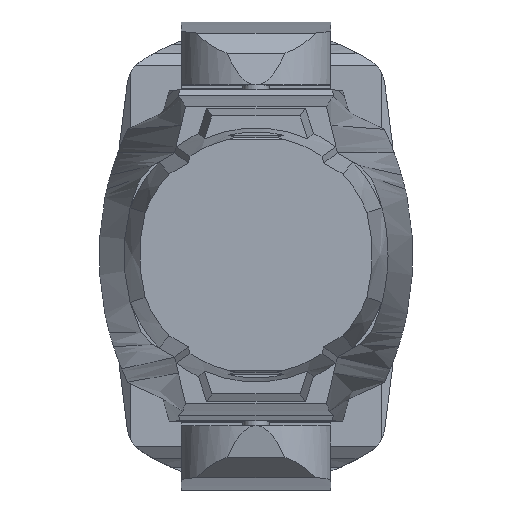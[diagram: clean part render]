
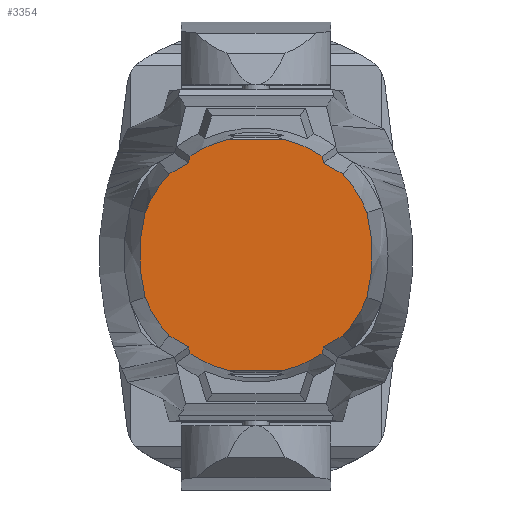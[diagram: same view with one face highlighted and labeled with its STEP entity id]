
A CAD part, top view. The second image highlights one B-rep face of the part: STEP entity #3354.
In plain terms, the highlighted planar face has unit normal (0, 0, 1).
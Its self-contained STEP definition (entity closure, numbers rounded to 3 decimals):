
#232=PLANE('',#3691);
#409=LINE('',#5571,#653);
#410=LINE('',#5573,#654);
#411=LINE('',#5575,#655);
#412=LINE('',#5583,#656);
#413=LINE('',#5585,#657);
#414=LINE('',#5586,#658);
#415=LINE('',#5587,#659);
#416=LINE('',#5589,#660);
#417=LINE('',#5597,#661);
#418=LINE('',#5599,#662);
#653=VECTOR('',#4357,1000.);
#654=VECTOR('',#4360,1000.);
#655=VECTOR('',#4361,1000.);
#656=VECTOR('',#4368,1000.);
#657=VECTOR('',#4369,1000.);
#658=VECTOR('',#4370,1000.);
#659=VECTOR('',#4371,1000.);
#660=VECTOR('',#4372,1000.);
#661=VECTOR('',#4379,1000.);
#662=VECTOR('',#4380,1000.);
#1336=ORIENTED_EDGE('',*,*,#2072,.F.);
#1337=ORIENTED_EDGE('',*,*,#2095,.T.);
#1338=ORIENTED_EDGE('',*,*,#2064,.F.);
#1339=ORIENTED_EDGE('',*,*,#2096,.F.);
#1340=ORIENTED_EDGE('',*,*,#2097,.F.);
#1341=ORIENTED_EDGE('',*,*,#2098,.F.);
#1342=ORIENTED_EDGE('',*,*,#2099,.F.);
#1343=ORIENTED_EDGE('',*,*,#2100,.F.);
#1344=ORIENTED_EDGE('',*,*,#2101,.F.);
#1345=ORIENTED_EDGE('',*,*,#2102,.F.);
#1346=ORIENTED_EDGE('',*,*,#2090,.F.);
#1347=ORIENTED_EDGE('',*,*,#2103,.F.);
#1348=ORIENTED_EDGE('',*,*,#2082,.F.);
#1349=ORIENTED_EDGE('',*,*,#2104,.F.);
#1350=ORIENTED_EDGE('',*,*,#2105,.F.);
#1351=ORIENTED_EDGE('',*,*,#2106,.F.);
#1352=ORIENTED_EDGE('',*,*,#2107,.F.);
#1353=ORIENTED_EDGE('',*,*,#2108,.F.);
#1354=ORIENTED_EDGE('',*,*,#2109,.F.);
#1355=ORIENTED_EDGE('',*,*,#2110,.F.);
#2064=EDGE_CURVE('',#2495,#2496,#2714,.T.);
#2072=EDGE_CURVE('',#2503,#2504,#2717,.T.);
#2082=EDGE_CURVE('',#2513,#2514,#2722,.T.);
#2090=EDGE_CURVE('',#2521,#2522,#2725,.T.);
#2095=EDGE_CURVE('',#2503,#2496,#409,.T.);
#2096=EDGE_CURVE('',#2523,#2495,#410,.F.);
#2097=EDGE_CURVE('',#2524,#2523,#411,.F.);
#2098=EDGE_CURVE('',#2525,#2524,#2726,.T.);
#2099=EDGE_CURVE('',#2526,#2525,#2727,.T.);
#2100=EDGE_CURVE('',#2527,#2526,#2728,.T.);
#2101=EDGE_CURVE('',#2528,#2527,#412,.F.);
#2102=EDGE_CURVE('',#2522,#2528,#413,.F.);
#2103=EDGE_CURVE('',#2514,#2521,#414,.T.);
#2104=EDGE_CURVE('',#2529,#2513,#415,.F.);
#2105=EDGE_CURVE('',#2530,#2529,#416,.F.);
#2106=EDGE_CURVE('',#2531,#2530,#2729,.T.);
#2107=EDGE_CURVE('',#2532,#2531,#2730,.T.);
#2108=EDGE_CURVE('',#2533,#2532,#2731,.T.);
#2109=EDGE_CURVE('',#2534,#2533,#417,.F.);
#2110=EDGE_CURVE('',#2504,#2534,#418,.F.);
#2495=VERTEX_POINT('',#5477);
#2496=VERTEX_POINT('',#5479);
#2503=VERTEX_POINT('',#5499);
#2504=VERTEX_POINT('',#5501);
#2513=VERTEX_POINT('',#5535);
#2514=VERTEX_POINT('',#5537);
#2521=VERTEX_POINT('',#5557);
#2522=VERTEX_POINT('',#5559);
#2523=VERTEX_POINT('',#5574);
#2524=VERTEX_POINT('',#5576);
#2525=VERTEX_POINT('',#5578);
#2526=VERTEX_POINT('',#5580);
#2527=VERTEX_POINT('',#5582);
#2528=VERTEX_POINT('',#5584);
#2529=VERTEX_POINT('',#5588);
#2530=VERTEX_POINT('',#5590);
#2531=VERTEX_POINT('',#5592);
#2532=VERTEX_POINT('',#5594);
#2533=VERTEX_POINT('',#5596);
#2534=VERTEX_POINT('',#5598);
#2714=CIRCLE('',#3668,99.699);
#2717=CIRCLE('',#3674,99.699);
#2722=CIRCLE('',#3680,99.699);
#2725=CIRCLE('',#3686,99.699);
#2726=CIRCLE('',#3692,99.699);
#2727=CIRCLE('',#3693,141.334);
#2728=CIRCLE('',#3694,99.699);
#2729=CIRCLE('',#3695,99.699);
#2730=CIRCLE('',#3696,141.334);
#2731=CIRCLE('',#3697,99.699);
#2891=EDGE_LOOP('',(#1336,#1337,#1338,#1339,#1340,#1341,#1342,#1343,#1344,
#1345,#1346,#1347,#1348,#1349,#1350,#1351,#1352,#1353,#1354,#1355));
#3109=FACE_BOUND('',#2891,.T.);
#3354=ADVANCED_FACE('',(#3109),#232,.F.);
#3668=AXIS2_PLACEMENT_3D('',#5478,#4308,#4309);
#3674=AXIS2_PLACEMENT_3D('',#5500,#4320,#4321);
#3680=AXIS2_PLACEMENT_3D('',#5536,#4332,#4333);
#3686=AXIS2_PLACEMENT_3D('',#5558,#4344,#4345);
#3691=AXIS2_PLACEMENT_3D('',#5572,#4358,#4359);
#3692=AXIS2_PLACEMENT_3D('',#5577,#4362,#4363);
#3693=AXIS2_PLACEMENT_3D('',#5579,#4364,#4365);
#3694=AXIS2_PLACEMENT_3D('',#5581,#4366,#4367);
#3695=AXIS2_PLACEMENT_3D('',#5591,#4373,#4374);
#3696=AXIS2_PLACEMENT_3D('',#5593,#4375,#4376);
#3697=AXIS2_PLACEMENT_3D('',#5595,#4377,#4378);
#4308=DIRECTION('',(0.,0.,-1.));
#4309=DIRECTION('',(0.,1.,0.));
#4320=DIRECTION('',(0.,0.,-1.));
#4321=DIRECTION('',(0.,1.,0.));
#4332=DIRECTION('',(0.,0.,-1.));
#4333=DIRECTION('',(0.,1.,0.));
#4344=DIRECTION('',(0.,0.,-1.));
#4345=DIRECTION('',(0.,1.,0.));
#4357=DIRECTION('',(-1.,0.,0.));
#4358=DIRECTION('',(0.,0.,-1.));
#4359=DIRECTION('',(0.,1.,0.));
#4360=DIRECTION('',(-0.229,-0.973,0.));
#4361=DIRECTION('',(-0.867,-0.498,0.));
#4362=DIRECTION('',(0.,0.,-1.));
#4363=DIRECTION('',(0.,1.,0.));
#4364=DIRECTION('',(0.,0.,-1.));
#4365=DIRECTION('',(0.,1.,0.));
#4366=DIRECTION('',(0.,0.,-1.));
#4367=DIRECTION('',(0.,1.,0.));
#4368=DIRECTION('',(0.867,-0.498,0.));
#4369=DIRECTION('',(0.229,-0.973,0.));
#4370=DIRECTION('',(-1.,0.,0.));
#4371=DIRECTION('',(0.229,0.973,0.));
#4372=DIRECTION('',(0.867,0.498,0.));
#4373=DIRECTION('',(0.,0.,-1.));
#4374=DIRECTION('',(0.,1.,0.));
#4375=DIRECTION('',(0.,0.,-1.));
#4376=DIRECTION('',(0.,1.,0.));
#4377=DIRECTION('',(0.,0.,-1.));
#4378=DIRECTION('',(0.,1.,0.));
#4379=DIRECTION('',(-0.867,0.498,0.));
#4380=DIRECTION('',(-0.229,0.973,0.));
#5477=CARTESIAN_POINT('',(-55.469,82.844,728.152));
#5478=CARTESIAN_POINT('',(0.,0.,728.152));
#5479=CARTESIAN_POINT('',(-23.984,96.772,728.152));
#5499=CARTESIAN_POINT('',(23.984,96.772,728.152));
#5500=CARTESIAN_POINT('',(0.,0.,728.152));
#5501=CARTESIAN_POINT('',(55.469,82.844,728.152));
#5535=CARTESIAN_POINT('',(55.469,-82.844,728.152));
#5536=CARTESIAN_POINT('',(0.,0.,728.152));
#5537=CARTESIAN_POINT('',(23.984,-96.772,728.152));
#5557=CARTESIAN_POINT('',(-23.984,-96.772,728.152));
#5558=CARTESIAN_POINT('',(0.,0.,728.152));
#5559=CARTESIAN_POINT('',(-55.469,-82.844,728.152));
#5571=CARTESIAN_POINT('',(135.101,96.772,728.152));
#5572=CARTESIAN_POINT('',(135.101,96.772,728.152));
#5573=CARTESIAN_POINT('',(-42.351,138.554,728.152));
#5574=CARTESIAN_POINT('',(-56.812,77.138,728.152));
#5575=CARTESIAN_POINT('',(96.03,164.853,728.152));
#5576=CARTESIAN_POINT('',(-73.111,67.785,728.152));
#5577=CARTESIAN_POINT('',(0.,0.,728.152));
#5578=CARTESIAN_POINT('',(-93.091,35.694,728.152));
#5579=CARTESIAN_POINT('',(43.662,0.,728.152));
#5580=CARTESIAN_POINT('',(-93.091,-35.694,728.152));
#5581=CARTESIAN_POINT('',(0.,0.,728.152));
#5582=CARTESIAN_POINT('',(-73.111,-67.785,728.152));
#5583=CARTESIAN_POINT('',(12.476,-116.902,728.152));
#5584=CARTESIAN_POINT('',(-56.812,-77.138,728.152));
#5585=CARTESIAN_POINT('',(-85.529,44.823,728.152));
#5586=CARTESIAN_POINT('',(135.101,-96.772,728.152));
#5587=CARTESIAN_POINT('',(99.722,105.102,728.152));
#5588=CARTESIAN_POINT('',(56.812,-77.138,728.152));
#5589=CARTESIAN_POINT('',(190.783,-0.255,728.152));
#5590=CARTESIAN_POINT('',(73.111,-67.785,728.152));
#5591=CARTESIAN_POINT('',(0.,0.,728.152));
#5592=CARTESIAN_POINT('',(93.091,-35.694,728.152));
#5593=CARTESIAN_POINT('',(-43.662,0.,728.152));
#5594=CARTESIAN_POINT('',(93.091,35.694,728.152));
#5595=CARTESIAN_POINT('',(0.,0.,728.152));
#5596=CARTESIAN_POINT('',(73.111,67.785,728.152));
#5597=CARTESIAN_POINT('',(107.229,48.205,728.152));
#5598=CARTESIAN_POINT('',(56.812,77.138,728.152));
#5599=CARTESIAN_POINT('',(56.544,78.275,728.152));
